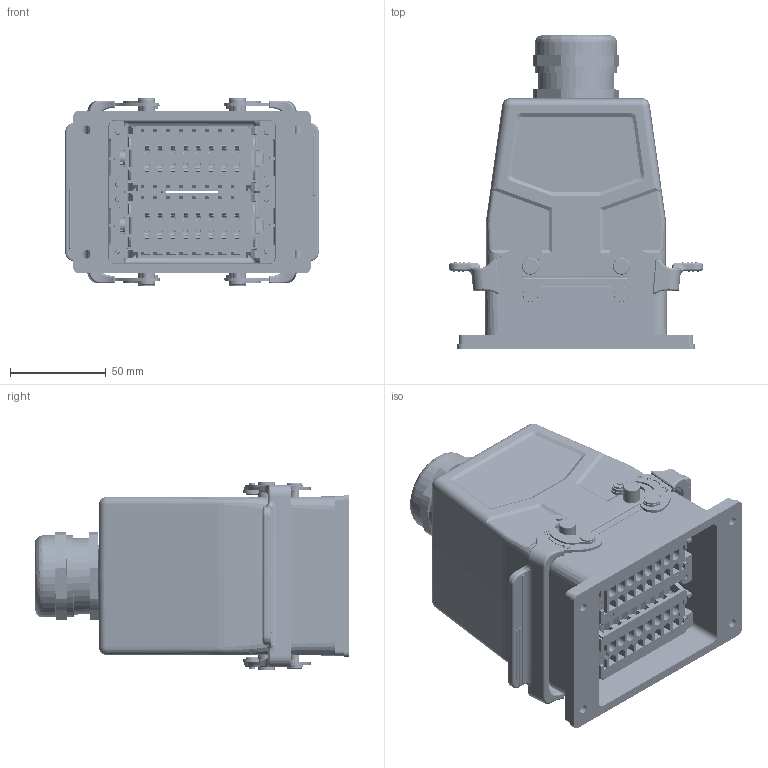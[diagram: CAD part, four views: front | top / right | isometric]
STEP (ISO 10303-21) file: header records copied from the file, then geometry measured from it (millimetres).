
FILE_DESCRIPTION (( 'STEP AP214' ), '1' );
FILE_NAME ('09032102132P HE、32针、开孔底座、顶出M32套件、配塑料接头.STEP', '2024-04-28T08:02:38', ( 'L' ), ( '' ), 'SwSTEP 2.0', 'SolidWorks 2019', '' );
FILE_SCHEMA (( 'AUTOMOTIVE_DESIGN' ));
Length unit declared in the file: millimetre
Products named in the file (8): HE-016-M.stp; 09032102132P HE、32针、开孔底座、顶出M32套件、配塑料接头; HE-016-MD.stp; H32B-TG-M32.step; HE-016-F.stp; H32B-AG.step; HE-016-FD.stp; FAS-32-P.step
Assembly tree (7 placements, depth 2):
  09032102132P HE、32针、开孔底座、顶出M32套件、配塑料接头
    H32B-AG.step
    HE-016-M.stp
    HE-016-F.stp
    HE-016-MD.stp
    HE-016-FD.stp
    H32B-TG-M32.step
    FAS-32-P.step
Bounding box: 132.45 x 164.15 x 98.5 mm (x, y, z)
Volume: 346219.4 mm3; surface area: 254379.6 mm2
Topology: 6 solids, 13 shells, 12843 faces, 35412 edges, 22516 vertices
Faces by surface type: plane 6133, bspline 2468, cylinder 2173, cone 1469, torus 465, sphere 135
Entity records: 552187 total; most frequent: CARTESIAN_POINT 210135, ORIENTED_EDGE 69801, DIRECTION 52893, EDGE_CURVE 34903, VERTEX_POINT 22448, LINE 18103, VECTOR 18103, AXIS2_PLACEMENT_3D 17395
